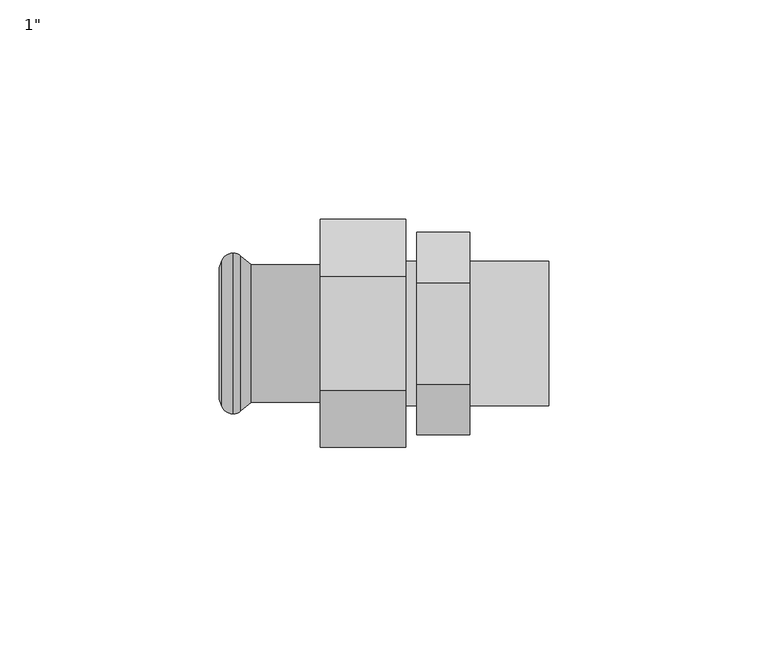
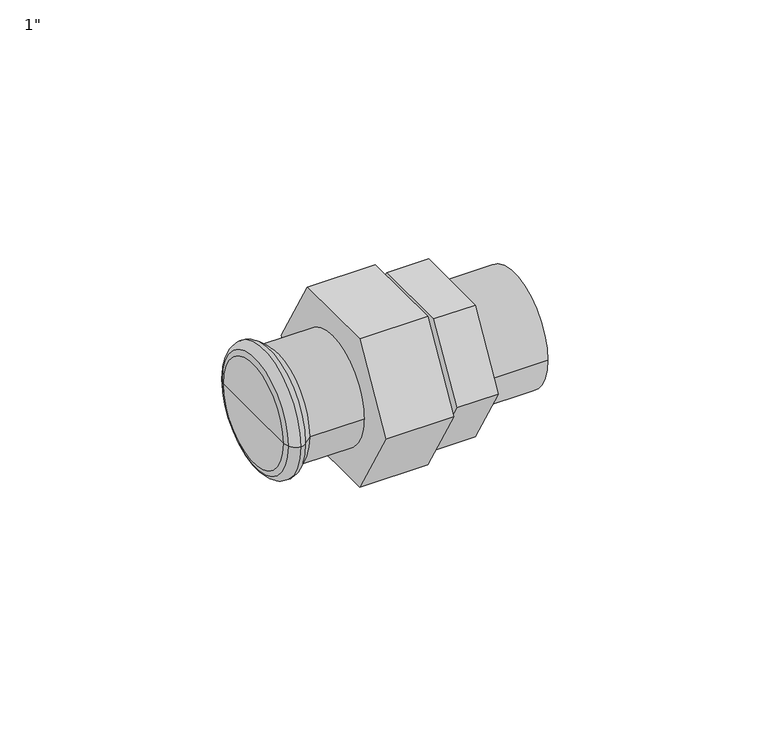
"""IFC4 building model written with IfcOpenShell, lengths in millimetres: pipe fitting geometry."""

from ifc_helpers import new_model, si_unit, point, frame, origin, origin_2d, place, context, project, spatial, polyline, circle_curve, ellipse_curve, trimmed, segment, composite_curve, outline, extrude, source, transform, mapped, element, save
from ifc_brep_helpers import plane_surface, cylinder_surface, revolved_surface, advanced_brep


def pipe_fitting_b56d1ab0(model_context):
    return source(origin(), model_context, "Body", "SolidModel", [
        extrude(outline(polyline([(-23.0940108, 0.0), (-11.5470054, 20.0), (11.5470054, 20.0), (23.0940108, 0.0), (11.5470054, -20.0), (-11.5470054, -20.0), (-23.0940108, 0.0)])), frame((22.0, 0.0, 0.0), z_axis=(1.0, 0.0, 0.0), x_axis=(0.0, 1.0, 0.0)), (0.0, 0.0, 1.0), 12.0),
        extrude(outline(composite_curve([segment(trimmed(circle_curve(origin_2d(), 16.5), [point((-16.5, 0.0))], [point((16.5, 0.0))], False, "CARTESIAN"), True, "CONTINUOUS"), segment(trimmed(circle_curve(origin_2d(), 16.5), [point((16.5, 0.0))], [point((-16.5, 0.0))], False, "CARTESIAN"), True, "CONTINUOUS")], self_intersect=False)), frame((19.5, 0.0, 0.0), z_axis=(1.0, 0.0, 0.0), x_axis=(0.0, 1.0, 0.0)), (0.0, 0.0, 1.0), 32.5),
        extrude(outline(polyline([(-25.9807621, 0.0), (-12.9903811, 22.5), (12.9903811, 22.5), (25.9807621, 0.0), (12.9903811, -22.5), (-12.9903811, -22.5), (-25.9807621, 0.0)])), frame((0.0, 0.0, 0.0), z_axis=(1.0, 0.0, 0.0), x_axis=(0.0, 1.0, 0.0)), (0.0, 0.0, 1.0), 19.5),
        advanced_brep(
        [(-15.7838092, -15.7, 0.0), (-15.7838092, 15.7, 0.0), (0.0, 15.7, 0.0), (0.0, -15.7, 0.0), (-18.0922627, -17.6370225, 0.0), (-18.0922627, 17.6370225, 0.0), (-19.8921278, -18.325, 0.0), (-19.8921278, 18.325, 0.0), (-22.432052, -16.5484544, 0.0), (-22.432052, 16.5484544, 0.0), (-23.0, -14.9880302, 0.0), (-23.0, 14.9880302, 0.0), (-23.0, 0.0, 0.0), (0.0, 0.0, 0.0)],
        [
            (0, 1, circle_curve(frame((-15.7838092, 0.0, 0.0), z_axis=(1.0, 0.0, 0.0), x_axis=(0.0, 1.0, 0.0)), 15.7)),
            (1, 2),
            (2, 3, circle_curve(frame((0.0, 0.0, 0.0), z_axis=(-1.0, 0.0, 0.0), x_axis=(0.0, 1.0, 0.0)), 15.7)),
            (3, 0),
            (1, 0, circle_curve(frame((-15.7838092, 0.0, 0.0), z_axis=(1.0, 0.0, 0.0), x_axis=(0.0, 1.0, 0.0)), 15.7)),
            (3, 2, circle_curve(frame((0.0, 0.0, 0.0), z_axis=(-1.0, 0.0, 0.0), x_axis=(0.0, 1.0, 0.0)), 15.7)),
            (4, 5, circle_curve(frame((-18.0922627, 0.0, 0.0), z_axis=(1.0, 0.0, 0.0), x_axis=(0.0, 1.0, 0.0)), 17.6370225)),
            (5, 1),
            (0, 4),
            (5, 4, circle_curve(frame((-18.0922627, 0.0, 0.0), z_axis=(1.0, 0.0, 0.0), x_axis=(0.0, 1.0, 0.0)), 17.6370225)),
            (6, 7, circle_curve(frame((-19.8921278, 0.0, 0.0), z_axis=(1.0, 0.0, 0.0), x_axis=(0.0, 1.0, 0.0)), 18.325)),
            (7, 5, circle_curve(frame((-19.8935049, 15.6230333, 0.0), z_axis=(0.0, 0.0, -1.0), x_axis=(1.0, 0.0, 0.0)), 2.701967)),
            (4, 6, circle_curve(frame((-19.8935049, -15.6230333, 0.0), z_axis=(0.0, 0.0, -1.0), x_axis=(1.0, 0.0, 0.0)), 2.701967)),
            (7, 6, circle_curve(frame((-19.8921278, 0.0, 0.0), z_axis=(1.0, 0.0, 0.0), x_axis=(0.0, 1.0, 0.0)), 18.325)),
            (8, 9, circle_curve(frame((-22.432052, 0.0, 0.0), z_axis=(1.0, 0.0, 0.0), x_axis=(0.0, 1.0, 0.0)), 16.5484544)),
            (9, 7, circle_curve(frame((-19.89488, 15.6249993, 0.0), z_axis=(0.0, 0.0, -1.0), x_axis=(1.0, 0.0, 0.0)), 2.7000021)),
            (6, 8, circle_curve(frame((-19.89488, -15.6249993, 0.0), z_axis=(0.0, 0.0, -1.0), x_axis=(1.0, 0.0, 0.0)), 2.7000021)),
            (9, 8, circle_curve(frame((-22.432052, 0.0, 0.0), z_axis=(1.0, 0.0, 0.0), x_axis=(0.0, 1.0, 0.0)), 16.5484544)),
            (10, 11, circle_curve(frame((-23.0, 0.0, 0.0), z_axis=(1.0, 0.0, 0.0), x_axis=(0.0, 1.0, 0.0)), 14.9880302)),
            (11, 9),
            (8, 10),
            (11, 10, circle_curve(frame((-23.0, 0.0, 0.0), z_axis=(1.0, 0.0, 0.0), x_axis=(0.0, 1.0, 0.0)), 14.9880302)),
            (12, 11),
            (10, 12),
            (2, 13),
            (13, 3),
        ],
        [
            cylinder_surface(frame((1365.742668, 0.0, 0.0), z_axis=(-1.0, 0.0, 0.0), x_axis=(0.0, 1.0, 0.0)), 15.7),
            revolved_surface(polyline([(-15.7838092, 15.7, 0.0), (-18.0922627, 17.6370225, 0.0)]), (1365.742668, 0.0, 0.0), (-1.0, 0.0, 0.0)),
            revolved_surface(trimmed(ellipse_curve(frame((-19.8935049, 15.6230333, 0.0), z_axis=(0.0, 0.0, 1.0), x_axis=(1.0, 0.0, 0.0)), 2.701967, 2.701967), [point((-18.0922627, 17.6370225, 0.0))], [point((-19.8921278, 18.325, 0.0))], True, "CARTESIAN"), (1365.742668, 0.0, 0.0), (-1.0, 0.0, 0.0)),
            revolved_surface(trimmed(ellipse_curve(frame((-19.89488, 15.6249993, 0.0), z_axis=(0.0, 0.0, 1.0), x_axis=(1.0, 0.0, 0.0)), 2.7000021, 2.7000021), [point((-19.8921278, 18.325, 0.0))], [point((-22.432052, 16.5484544, 0.0))], True, "CARTESIAN"), (1365.742668, 0.0, 0.0), (-1.0, 0.0, 0.0)),
            revolved_surface(polyline([(-22.432052, 16.5484544, 0.0), (-23.0, 14.9880302, 0.0)]), (1365.742668, 0.0, 0.0), (-1.0, 0.0, 0.0)),
            plane_surface(frame((-23.0, 0.0, 0.0), z_axis=(-1.0, 0.0, 0.0), x_axis=(0.0, 1.0, 0.0))),
            plane_surface(frame((0.0, 0.0, 0.0), z_axis=(1.0, 0.0, 0.0), x_axis=(0.0, 1.0, 0.0))),
        ],
        [
            (0, [[1, 2, 3, 4]]),
            (0, [[5, -4, 6, -2]]),
            (1, [[7, 8, -1, 9]]),
            (1, [[10, -9, -5, -8]]),
            (2, [[11, 12, -7, 13]]),
            (2, [[14, -13, -10, -12]]),
            (3, [[15, 16, -11, 17]]),
            (3, [[18, -17, -14, -16]]),
            (4, [[19, 20, -15, 21]]),
            (4, [[22, -21, -18, -20]]),
            (5, [[23, -19, 24]]),
            (5, [[-24, -22, -23]]),
            (6, [[-3, 25, 26]]),
            (6, [[-6, -26, -25]]),
        ],
    ),
    ])


if __name__ == "__main__":
    model = new_model("IFC4")
    model_context = context("Model", 3, world=origin())
    ifc_project = project(units=[si_unit("LENGTHUNIT", "METRE", prefix="MILLI")], contexts=[model_context])
    site = spatial("IfcSite", under=ifc_project)
    building = spatial("IfcBuilding", under=site)
    placement = place(None, origin())
    pipe_fitting_shape = pipe_fitting_b56d1ab0(model_context)
    element("IfcPipeFitting", 1, ObjectType="KAN-therm Steel śrubunek GZ : 1\"", at=placement, inside=building, context=model_context, shape_type="MappedRepresentation", body=[
        mapped(pipe_fitting_shape, transform((0.0, 0.0, 0.0), x_axis=(1.0, 0.0, 0.0), y_axis=(0.0, 1.0, 0.0), z_axis=(0.0, 0.0, 1.0))),
    ])
    save(model, "model.ifc")
